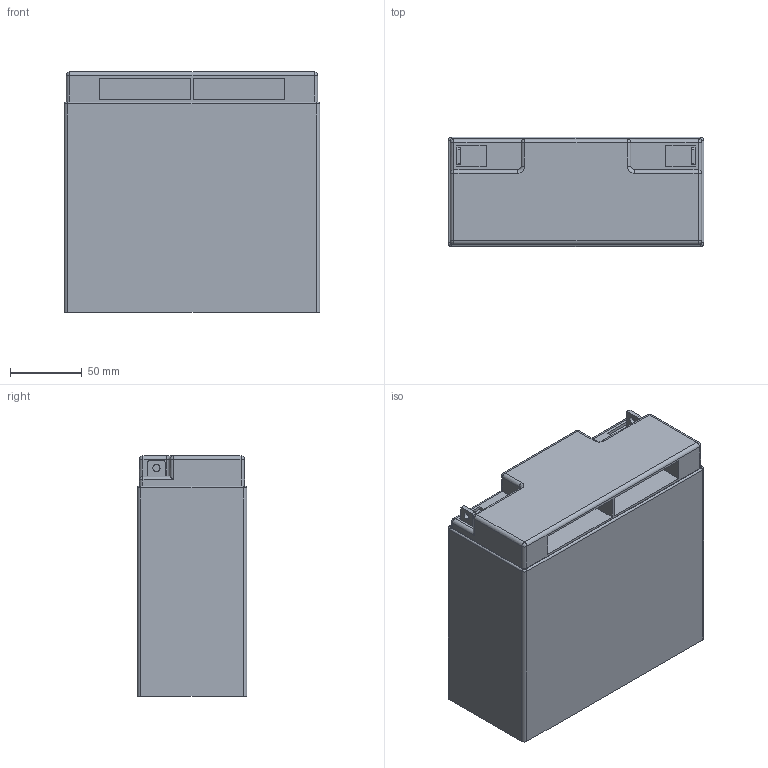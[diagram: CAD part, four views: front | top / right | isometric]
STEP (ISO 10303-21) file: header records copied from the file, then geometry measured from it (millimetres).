
FILE_DESCRIPTION (( 'STEP AP203' ), '1' );
FILE_NAME ('Battery_12V.step', '2017-12-27T12:17:55', ( '' ), ( '' ), 'SwSTEP 2.0', 'SolidWorks 2017', '' );
FILE_SCHEMA (( 'CONFIG_CONTROL_DESIGN' ));
Length unit declared in the file: millimetre
Products named in the file (1): Battery_12V
Bounding box: 177.8 x 76.2 x 167.13 mm (x, y, z)
Volume: 2160373.6 mm3; surface area: 120724.9 mm2
Topology: 1 solids, 1 shells, 111 faces, 270 edges, 160 vertices
Faces by surface type: plane 59, cylinder 38, sphere 8, torus 6
Entity records: 3223 total; most frequent: DIRECTION 556, CARTESIAN_POINT 546, ORIENTED_EDGE 524, EDGE_CURVE 262, AXIS2_PLACEMENT_3D 186, VECTOR 184, LINE 184, VERTEX_POINT 160
